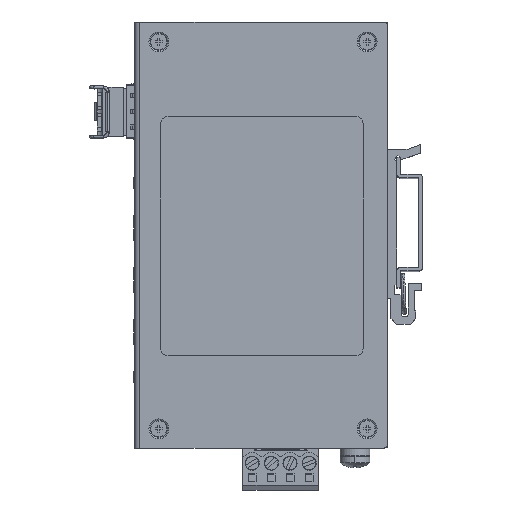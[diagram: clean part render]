
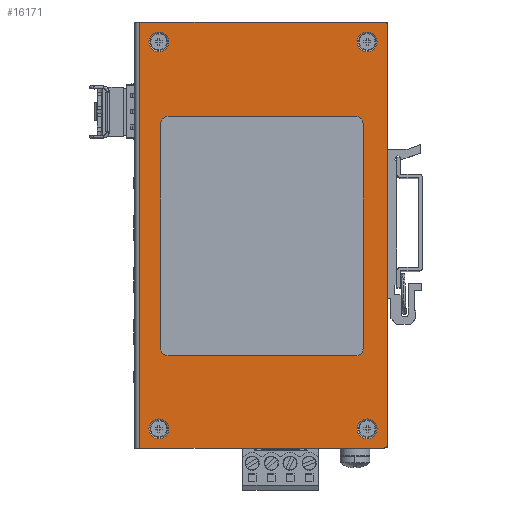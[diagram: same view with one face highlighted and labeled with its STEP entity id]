
A CAD part, top view. The second image highlights one B-rep face of the part: STEP entity #16171.
In plain terms, the highlighted planar face has unit normal (0, 0, 1) as drawn and (0, 0, -1) by its records, which use the part's own axes.
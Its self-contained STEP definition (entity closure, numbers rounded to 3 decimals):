
#14263=DIRECTION('',(1.,0.,0.));
#14264=VECTOR('',#14263,65.5);
#14265=CARTESIAN_POINT('',(-67.,114.75,-1.));
#14266=LINE('',#14265,#14264);
#14275=DIRECTION('',(0.,1.,0.));
#14276=VECTOR('',#14275,112.5);
#14277=CARTESIAN_POINT('',(-68.,1.25,-1.));
#14278=LINE('',#14277,#14276);
#14279=CARTESIAN_POINT('',(-67.,1.25,-1.));
#14280=DIRECTION('',(0.,0.,1.));
#14281=DIRECTION('',(-1.,0.,0.));
#14282=AXIS2_PLACEMENT_3D('',#14279,#14280,#14281);
#14284=DIRECTION('',(1.,0.,0.));
#14285=VECTOR('',#14284,65.5);
#14286=CARTESIAN_POINT('',(-67.,0.25,-1.));
#14287=LINE('',#14286,#14285);
#14288=CARTESIAN_POINT('',(-67.,113.75,-1.));
#14289=DIRECTION('',(0.,0.,1.));
#14290=DIRECTION('',(0.,1.,0.));
#14291=AXIS2_PLACEMENT_3D('',#14288,#14289,#14290);
#14293=CARTESIAN_POINT('',(-62.6,5.4,-1.));
#14294=DIRECTION('',(0.,0.,-1.));
#14295=DIRECTION('',(1.,0.,0.));
#14296=AXIS2_PLACEMENT_3D('',#14293,#14294,#14295);
#14298=CARTESIAN_POINT('',(-62.6,5.4,-1.));
#14299=DIRECTION('',(0.,0.,-1.));
#14300=DIRECTION('',(0.,-1.,0.));
#14301=AXIS2_PLACEMENT_3D('',#14298,#14299,#14300);
#14303=CARTESIAN_POINT('',(-62.6,5.4,-1.));
#14304=DIRECTION('',(0.,0.,-1.));
#14305=DIRECTION('',(-1.,0.,0.));
#14306=AXIS2_PLACEMENT_3D('',#14303,#14304,#14305);
#14308=CARTESIAN_POINT('',(-62.6,5.4,-1.));
#14309=DIRECTION('',(0.,0.,-1.));
#14310=DIRECTION('',(0.,1.,0.));
#14311=AXIS2_PLACEMENT_3D('',#14308,#14309,#14310);
#14313=CARTESIAN_POINT('',(-62.6,109.4,-1.));
#14314=DIRECTION('',(0.,0.,-1.));
#14315=DIRECTION('',(1.,0.,0.));
#14316=AXIS2_PLACEMENT_3D('',#14313,#14314,#14315);
#14318=CARTESIAN_POINT('',(-62.6,109.4,-1.));
#14319=DIRECTION('',(0.,0.,-1.));
#14320=DIRECTION('',(0.,-1.,0.));
#14321=AXIS2_PLACEMENT_3D('',#14318,#14319,#14320);
#14323=CARTESIAN_POINT('',(-62.6,109.4,-1.));
#14324=DIRECTION('',(0.,0.,-1.));
#14325=DIRECTION('',(-1.,0.,0.));
#14326=AXIS2_PLACEMENT_3D('',#14323,#14324,#14325);
#14328=CARTESIAN_POINT('',(-62.6,109.4,-1.));
#14329=DIRECTION('',(0.,0.,-1.));
#14330=DIRECTION('',(0.,1.,0.));
#14331=AXIS2_PLACEMENT_3D('',#14328,#14329,#14330);
#14333=CARTESIAN_POINT('',(-6.6,109.4,-1.));
#14334=DIRECTION('',(0.,0.,-1.));
#14335=DIRECTION('',(0.,-1.,0.));
#14336=AXIS2_PLACEMENT_3D('',#14333,#14334,#14335);
#14338=CARTESIAN_POINT('',(-6.6,109.4,-1.));
#14339=DIRECTION('',(0.,0.,-1.));
#14340=DIRECTION('',(0.,1.,0.));
#14341=AXIS2_PLACEMENT_3D('',#14338,#14339,#14340);
#14343=CARTESIAN_POINT('',(-6.6,5.4,-1.));
#14344=DIRECTION('',(0.,0.,-1.));
#14345=DIRECTION('',(0.,-1.,0.));
#14346=AXIS2_PLACEMENT_3D('',#14343,#14344,#14345);
#14348=CARTESIAN_POINT('',(-6.6,5.4,-1.));
#14349=DIRECTION('',(0.,0.,-1.));
#14350=DIRECTION('',(0.,1.,0.));
#14351=AXIS2_PLACEMENT_3D('',#14348,#14349,#14350);
#14353=CARTESIAN_POINT('',(-9.1,27.,-1.));
#14354=DIRECTION('',(0.,0.,-1.));
#14355=DIRECTION('',(1.,0.,0.));
#14356=AXIS2_PLACEMENT_3D('',#14353,#14354,#14355);
#14358=CARTESIAN_POINT('',(-59.5,27.,-1.));
#14359=DIRECTION('',(0.,0.,-1.));
#14360=DIRECTION('',(0.,-1.,0.));
#14361=AXIS2_PLACEMENT_3D('',#14358,#14359,#14360);
#14363=CARTESIAN_POINT('',(-59.5,87.4,-1.));
#14364=DIRECTION('',(0.,0.,-1.));
#14365=DIRECTION('',(-1.,0.,0.));
#14366=AXIS2_PLACEMENT_3D('',#14363,#14364,#14365);
#14368=CARTESIAN_POINT('',(-9.1,87.4,-1.));
#14369=DIRECTION('',(0.,0.,-1.));
#14370=DIRECTION('',(0.,1.,0.));
#14371=AXIS2_PLACEMENT_3D('',#14368,#14369,#14370);
#14373=DIRECTION('',(0.,-1.,0.));
#14374=VECTOR('',#14373,114.5);
#14375=CARTESIAN_POINT('',(-1.5,114.75,-1.));
#14376=LINE('',#14375,#14374);
#15369=DIRECTION('',(0.,1.,0.));
#15370=VECTOR('',#15369,60.4);
#15371=CARTESIAN_POINT('',(-7.1,27.,-1.));
#15372=LINE('',#15371,#15370);
#15381=DIRECTION('',(-1.,0.,0.));
#15382=VECTOR('',#15381,50.4);
#15383=CARTESIAN_POINT('',(-9.1,89.4,-1.));
#15384=LINE('',#15383,#15382);
#15393=DIRECTION('',(0.,-1.,0.));
#15394=VECTOR('',#15393,60.4);
#15395=CARTESIAN_POINT('',(-61.5,87.4,-1.));
#15396=LINE('',#15395,#15394);
#15405=DIRECTION('',(1.,0.,0.));
#15406=VECTOR('',#15405,50.4);
#15407=CARTESIAN_POINT('',(-59.5,25.,-1.));
#15408=LINE('',#15407,#15406);
#15545=CARTESIAN_POINT('',(-67.,0.25,-1.));
#15546=VERTEX_POINT('',#15545);
#15547=CARTESIAN_POINT('',(-68.,1.25,-1.));
#15548=VERTEX_POINT('',#15547);
#15549=CARTESIAN_POINT('',(-1.5,0.25,-1.));
#15550=VERTEX_POINT('',#15549);
#15557=CARTESIAN_POINT('',(-1.5,114.75,-1.));
#15558=VERTEX_POINT('',#15557);
#15561=CARTESIAN_POINT('',(-67.,114.75,-1.));
#15562=VERTEX_POINT('',#15561);
#15563=CARTESIAN_POINT('',(-68.,113.75,-1.));
#15564=VERTEX_POINT('',#15563);
#15565=CARTESIAN_POINT('',(-59.95,5.4,-1.));
#15566=CARTESIAN_POINT('',(-62.6,2.75,-1.));
#15567=VERTEX_POINT('',#15565);
#15568=VERTEX_POINT('',#15566);
#15569=CARTESIAN_POINT('',(-65.25,5.4,-1.));
#15570=VERTEX_POINT('',#15569);
#15571=CARTESIAN_POINT('',(-62.6,8.05,-1.));
#15572=VERTEX_POINT('',#15571);
#15573=CARTESIAN_POINT('',(-59.95,109.4,-1.));
#15574=CARTESIAN_POINT('',(-62.6,106.75,-1.));
#15575=VERTEX_POINT('',#15573);
#15576=VERTEX_POINT('',#15574);
#15577=CARTESIAN_POINT('',(-65.25,109.4,-1.));
#15578=VERTEX_POINT('',#15577);
#15579=CARTESIAN_POINT('',(-62.6,112.05,-1.));
#15580=VERTEX_POINT('',#15579);
#15581=CARTESIAN_POINT('',(-6.6,106.75,-1.));
#15582=CARTESIAN_POINT('',(-6.6,112.05,-1.));
#15583=VERTEX_POINT('',#15581);
#15584=VERTEX_POINT('',#15582);
#15585=CARTESIAN_POINT('',(-6.6,2.75,-1.));
#15586=CARTESIAN_POINT('',(-6.6,8.05,-1.));
#15587=VERTEX_POINT('',#15585);
#15588=VERTEX_POINT('',#15586);
#15589=CARTESIAN_POINT('',(-7.1,27.,-1.));
#15590=CARTESIAN_POINT('',(-9.1,25.,-1.));
#15591=VERTEX_POINT('',#15589);
#15592=VERTEX_POINT('',#15590);
#15593=CARTESIAN_POINT('',(-59.5,25.,-1.));
#15594=VERTEX_POINT('',#15593);
#15595=CARTESIAN_POINT('',(-61.5,27.,-1.));
#15596=VERTEX_POINT('',#15595);
#15597=CARTESIAN_POINT('',(-61.5,87.4,-1.));
#15598=VERTEX_POINT('',#15597);
#15599=CARTESIAN_POINT('',(-59.5,89.4,-1.));
#15600=VERTEX_POINT('',#15599);
#15601=CARTESIAN_POINT('',(-9.1,89.4,-1.));
#15602=VERTEX_POINT('',#15601);
#15603=CARTESIAN_POINT('',(-7.1,87.4,-1.));
#15604=VERTEX_POINT('',#15603);
#16107=CARTESIAN_POINT('',(-68.,0.,-1.));
#16108=DIRECTION('',(0.,0.,1.));
#16109=DIRECTION('',(1.,0.,0.));
#16110=AXIS2_PLACEMENT_3D('',#16107,#16108,#16109);
#16111=PLANE('',#16110);
#16112=ORIENTED_EDGE('',*,*,#16001,.T.);
#16113=ORIENTED_EDGE('',*,*,#16017,.T.);
#16115=ORIENTED_EDGE('',*,*,#16114,.F.);
#16116=ORIENTED_EDGE('',*,*,#16073,.F.);
#16117=ORIENTED_EDGE('',*,*,#16088,.T.);
#16118=ORIENTED_EDGE('',*,*,#16100,.F.);
#16119=EDGE_LOOP('',(#16112,#16113,#16115,#16116,#16117,#16118));
#16120=FACE_OUTER_BOUND('',#16119,.F.);
#16122=ORIENTED_EDGE('',*,*,#16121,.T.);
#16124=ORIENTED_EDGE('',*,*,#16123,.T.);
#16126=ORIENTED_EDGE('',*,*,#16125,.T.);
#16128=ORIENTED_EDGE('',*,*,#16127,.T.);
#16129=EDGE_LOOP('',(#16122,#16124,#16126,#16128));
#16130=FACE_BOUND('',#16129,.F.);
#16132=ORIENTED_EDGE('',*,*,#16131,.T.);
#16134=ORIENTED_EDGE('',*,*,#16133,.T.);
#16136=ORIENTED_EDGE('',*,*,#16135,.T.);
#16138=ORIENTED_EDGE('',*,*,#16137,.T.);
#16139=EDGE_LOOP('',(#16132,#16134,#16136,#16138));
#16140=FACE_BOUND('',#16139,.F.);
#16142=ORIENTED_EDGE('',*,*,#16141,.T.);
#16144=ORIENTED_EDGE('',*,*,#16143,.T.);
#16145=EDGE_LOOP('',(#16142,#16144));
#16146=FACE_BOUND('',#16145,.F.);
#16148=ORIENTED_EDGE('',*,*,#16147,.T.);
#16150=ORIENTED_EDGE('',*,*,#16149,.T.);
#16151=EDGE_LOOP('',(#16148,#16150));
#16152=FACE_BOUND('',#16151,.F.);
#16154=ORIENTED_EDGE('',*,*,#16153,.T.);
#16156=ORIENTED_EDGE('',*,*,#16155,.F.);
#16158=ORIENTED_EDGE('',*,*,#16157,.T.);
#16160=ORIENTED_EDGE('',*,*,#16159,.F.);
#16162=ORIENTED_EDGE('',*,*,#16161,.T.);
#16164=ORIENTED_EDGE('',*,*,#16163,.F.);
#16166=ORIENTED_EDGE('',*,*,#16165,.T.);
#16168=ORIENTED_EDGE('',*,*,#16167,.F.);
#16169=EDGE_LOOP('',(#16154,#16156,#16158,#16160,#16162,#16164,#16166,#16168));
#16170=FACE_BOUND('',#16169,.F.);
#14283=CIRCLE('',#14282,1.);
#14292=CIRCLE('',#14291,1.);
#14297=CIRCLE('',#14296,2.65);
#14302=CIRCLE('',#14301,2.65);
#14307=CIRCLE('',#14306,2.65);
#14312=CIRCLE('',#14311,2.65);
#14317=CIRCLE('',#14316,2.65);
#14322=CIRCLE('',#14321,2.65);
#14327=CIRCLE('',#14326,2.65);
#14332=CIRCLE('',#14331,2.65);
#14337=CIRCLE('',#14336,2.65);
#14342=CIRCLE('',#14341,2.65);
#14347=CIRCLE('',#14346,2.65);
#14352=CIRCLE('',#14351,2.65);
#14357=CIRCLE('',#14356,2.);
#14362=CIRCLE('',#14361,2.);
#14367=CIRCLE('',#14366,2.);
#14372=CIRCLE('',#14371,2.);
#16001=EDGE_CURVE('',#15548,#15546,#14283,.T.);
#16017=EDGE_CURVE('',#15546,#15550,#14287,.T.);
#16073=EDGE_CURVE('',#15562,#15558,#14266,.T.);
#16088=EDGE_CURVE('',#15562,#15564,#14292,.T.);
#16100=EDGE_CURVE('',#15548,#15564,#14278,.T.);
#16114=EDGE_CURVE('',#15558,#15550,#14376,.T.);
#16121=EDGE_CURVE('',#15567,#15568,#14297,.T.);
#16123=EDGE_CURVE('',#15568,#15570,#14302,.T.);
#16125=EDGE_CURVE('',#15570,#15572,#14307,.T.);
#16127=EDGE_CURVE('',#15572,#15567,#14312,.T.);
#16131=EDGE_CURVE('',#15575,#15576,#14317,.T.);
#16133=EDGE_CURVE('',#15576,#15578,#14322,.T.);
#16135=EDGE_CURVE('',#15578,#15580,#14327,.T.);
#16137=EDGE_CURVE('',#15580,#15575,#14332,.T.);
#16141=EDGE_CURVE('',#15583,#15584,#14337,.T.);
#16143=EDGE_CURVE('',#15584,#15583,#14342,.T.);
#16147=EDGE_CURVE('',#15587,#15588,#14347,.T.);
#16149=EDGE_CURVE('',#15588,#15587,#14352,.T.);
#16153=EDGE_CURVE('',#15591,#15592,#14357,.T.);
#16155=EDGE_CURVE('',#15594,#15592,#15408,.T.);
#16157=EDGE_CURVE('',#15594,#15596,#14362,.T.);
#16159=EDGE_CURVE('',#15598,#15596,#15396,.T.);
#16161=EDGE_CURVE('',#15598,#15600,#14367,.T.);
#16163=EDGE_CURVE('',#15602,#15600,#15384,.T.);
#16165=EDGE_CURVE('',#15602,#15604,#14372,.T.);
#16167=EDGE_CURVE('',#15591,#15604,#15372,.T.);
#16171=ADVANCED_FACE('',(#16120,#16130,#16140,#16146,#16152,#16170),#16111,.F.);
